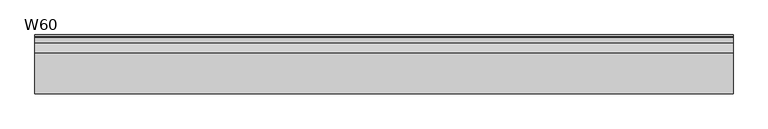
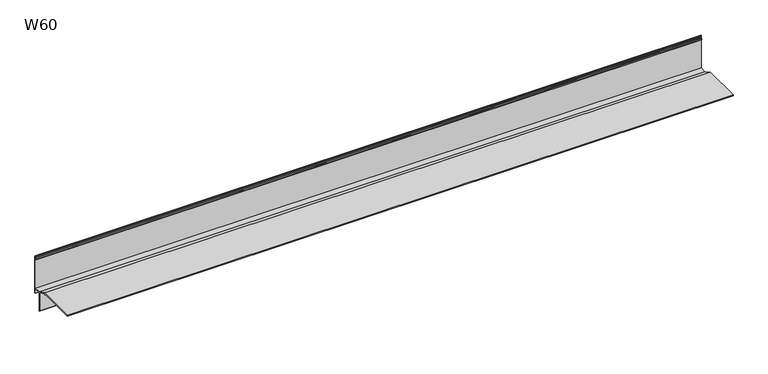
"""IFC4 building model written with IfcOpenShell, lengths in millimetres: proxy geometry, W60 Profil okapowy prosty : W60."""

from ifc_helpers import new_model, si_unit, point, frame, frame_2d, origin, place, context, project, spatial, polyline, circle_curve, trimmed, segment, composite_curve, outline, extrude, source, transform, mapped, element, save


def w60_c95d3f9e(model_context):
    return source(origin(), model_context, "Body", "SweptSolid", [
        extrude(outline(composite_curve([segment(trimmed(circle_curve(frame_2d((34.3, 58.0041739)), 1.0), [point((35.3, 58.0041739))], [point((34.2, 58.9991614))], True, "CARTESIAN"), True, "CONTINUOUS"), segment(polyline([(34.2, 58.9991614), (34.2, 60.8077037)]), True, "CONTINUOUS"), segment(trimmed(circle_curve(frame_2d((34.2, 58.0077037)), 2.8), [point((34.2, 60.8077037))], [point((37.0, 58.0077037))], False, "CARTESIAN"), True, "CONTINUOUS"), segment(polyline([(37.0, 58.0077037), (37.0, -21.8928203), (35.3, -20.9113249), (35.3, -12.0), (21.5, -12.0), (21.5, -52.2449747), (19.8, -50.5449747), (19.8, -11.3555248), (1.7, -1.9733759), (1.7, -4.7), (0.0, -4.7), (0.0, -1.7), (-80.0, -1.7), (-80.0, 0.0), (1.5870197, 0.0), (21.4577341, -10.3), (35.3, -10.3), (35.3, 53.6), (32.2, 53.6), (32.2, 55.1), (35.3, 55.1), (35.3, 58.0041739)]), True, "CONTINUOUS")], self_intersect=False)), frame((0.0, 0.0, 0.0), z_axis=(1.0, 0.0, 0.0), x_axis=(0.0, 1.0, 0.0)), (0.0, 0.0, 1.0), 1383.9179663),
    ])


if __name__ == "__main__":
    model = new_model("IFC4")
    model_context = context("Model", 3, world=origin())
    ifc_project = project(units=[si_unit("LENGTHUNIT", "METRE", prefix="MILLI")], contexts=[model_context])
    site = spatial("IfcSite", under=ifc_project)
    building = spatial("IfcBuilding", under=site)
    placement = place(None, origin())
    w60_shape = w60_c95d3f9e(model_context)
    element("IfcBuildingElementProxy", 1, Name="W60 Profil okapowy prosty : W60", ObjectType="W60 Profil okapowy prosty : W60", at=placement, inside=building, context=model_context, shape_type="MappedRepresentation", body=[
        mapped(w60_shape, transform((0.0, 0.0, 0.0), x_axis=(1.0, 0.0, 0.0), y_axis=(0.0, 1.0, 0.0), z_axis=(0.0, 0.0, 1.0))),
    ])
    save(model, "model.ifc")
